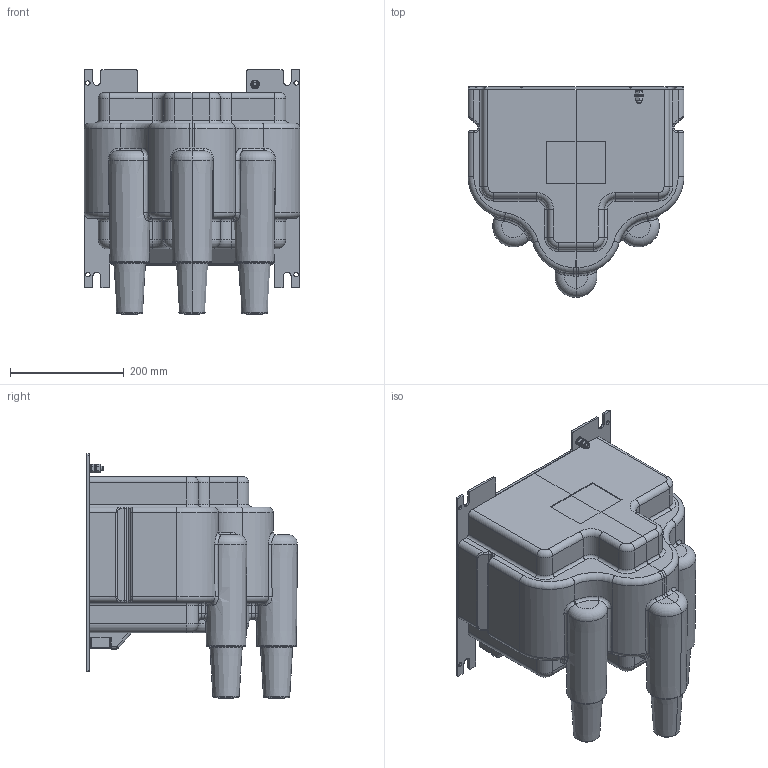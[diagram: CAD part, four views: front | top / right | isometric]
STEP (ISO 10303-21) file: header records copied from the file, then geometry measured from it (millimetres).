
FILE_DESCRIPTION(('STEP AP203'), '1');
FILE_NAME('Ñáîðêà 3ÍÈËÏ-ÍÒÇ-10 ver2', '', ('UNSPECIFIED'), ('UNSPECIFIED'), 'C3D Converter', 'C3D Toolkit', '');
FILE_SCHEMA(('CONFIG_CONTROL_DESIGN'));
Length unit declared in the file: millimetre
Assembly tree (34 placements, depth 2):
  (unnamed)
    (unnamed)
    (unnamed)
    (unnamed)  x15
    (unnamed)  x2
    (unnamed)  x3
    (unnamed)  x3
    (unnamed)
    (unnamed)  x2
    (unnamed)  x6
Bounding box: 380 x 371.2 x 429.92 mm (x, y, z)
Volume: 17706854.9 mm3; surface area: 1611065.3 mm2
Topology: 35 solids, 37 shells, 1598 faces, 3964 edges, 2463 vertices
Faces by surface type: plane 719, cylinder 529, torus 153, cone 105, bspline 58, sphere 34
Full cylindrical faces by diameter (mm): 4.5 x4, 4.917 x2, 6 x15, 6.647 x2, 8 x5, 8.4 x3, 10 x2, 12 x31, 14.917 x3, 15 x3, 16 x2, 17.3 x2, 17.989 x3, 21.5 x6, 21.989 x3, 26 x2, 26.989 x3, 94 x4, 135 x2
Entity records: 38890 total; most frequent: CARTESIAN_POINT 12343, DIRECTION 5456, ORIENTED_EDGE 5020, EDGE_CURVE 2510, AXIS2_PLACEMENT_3D 2075, VERTEX_POINT 1608, LINE 1306, VECTOR 1306
